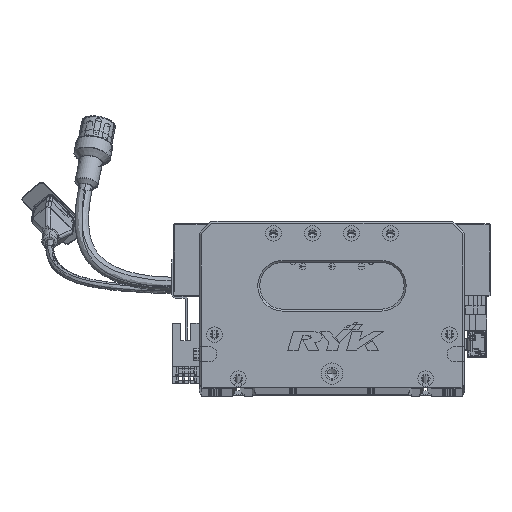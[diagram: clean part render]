
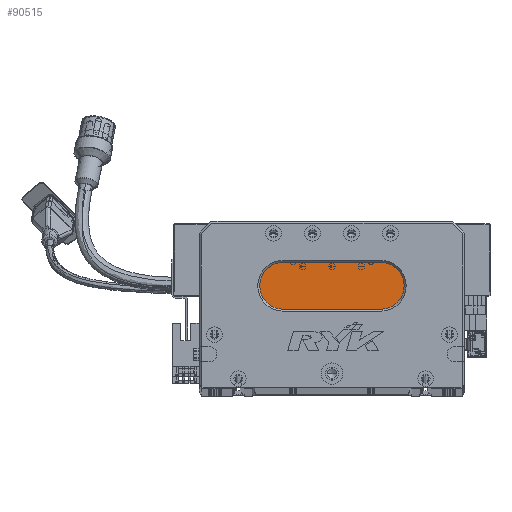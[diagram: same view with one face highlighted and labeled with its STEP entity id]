
A CAD part, top view. The second image highlights one B-rep face of the part: STEP entity #90515.
In plain terms, the highlighted planar face has unit normal (0, 0, 1) as drawn and (0, 0, -1) by its records, which use the part's own axes.
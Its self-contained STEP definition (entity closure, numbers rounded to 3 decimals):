
#146 = CARTESIAN_POINT ( 'NONE',  ( 43., 64., 13. ) ) ;
#2034 = VERTEX_POINT ( 'NONE', #146 ) ;
#2372 = LINE ( 'NONE', #71235, #17145 ) ;
#3712 = DIRECTION ( 'NONE',  ( 0., 0., -1. ) ) ;
#4210 = AXIS2_PLACEMENT_3D ( 'NONE', #67652, #31664, #20947 ) ;
#5195 = FACE_OUTER_BOUND ( 'NONE', #84935, .T. ) ;
#5804 = VERTEX_POINT ( 'NONE', #89399 ) ;
#8231 = AXIS2_PLACEMENT_3D ( 'NONE', #90310, #98613, #24242 ) ;
#9397 = VECTOR ( 'NONE', #61132, 1000. ) ;
#15174 = AXIS2_PLACEMENT_3D ( 'NONE', #109986, #53399, #44764 ) ;
#17145 = VECTOR ( 'NONE', #61684, 1000. ) ;
#20947 = DIRECTION ( 'NONE',  ( -1., 0., 0. ) ) ;
#21686 = ORIENTED_EDGE ( 'NONE', *, *, #90084, .T. ) ;
#22036 = ORIENTED_EDGE ( 'NONE', *, *, #32040, .T. ) ;
#24242 = DIRECTION ( 'NONE',  ( -1., 0., 0. ) ) ;
#30082 = EDGE_CURVE ( 'NONE', #5804, #58537, #106016, .T. ) ;
#31664 = DIRECTION ( 'NONE',  ( 0., 0., -1. ) ) ;
#32040 = EDGE_CURVE ( 'NONE', #2034, #5804, #74503, .T. ) ;
#35625 = EDGE_CURVE ( 'NONE', #113795, #2034, #116816, .T. ) ;
#36254 = ORIENTED_EDGE ( 'NONE', *, *, #91107, .T. ) ;
#40090 = ORIENTED_EDGE ( 'NONE', *, *, #30082, .T. ) ;
#44764 = DIRECTION ( 'NONE',  ( -1., 0., 0. ) ) ;
#53399 = DIRECTION ( 'NONE',  ( 0., 0., -1. ) ) ;
#58537 = VERTEX_POINT ( 'NONE', #119477 ) ;
#61132 = DIRECTION ( 'NONE',  ( 1., 0., 0. ) ) ;
#61684 = DIRECTION ( 'NONE',  ( -1., 0., 0. ) ) ;
#62694 = VERTEX_POINT ( 'NONE', #115341 ) ;
#67644 = CARTESIAN_POINT ( 'NONE',  ( 31., 52., 13. ) ) ;
#67652 = CARTESIAN_POINT ( 'NONE',  ( 43., 52., 13. ) ) ;
#69907 = CARTESIAN_POINT ( 'NONE',  ( 93., 52., 13. ) ) ;
#71235 = CARTESIAN_POINT ( 'NONE',  ( 93., 40., 13. ) ) ;
#74503 = LINE ( 'NONE', #98359, #9397 ) ;
#78900 = ORIENTED_EDGE ( 'NONE', *, *, #35625, .T. ) ;
#84935 = EDGE_LOOP ( 'NONE', ( #40090, #21686, #36254, #78900, #22036 ) ) ;
#89399 = CARTESIAN_POINT ( 'NONE',  ( 93., 64., 13. ) ) ;
#90084 = EDGE_CURVE ( 'NONE', #58537, #62694, #2372, .T. ) ;
#90310 = CARTESIAN_POINT ( 'NONE',  ( 43., 52., 13. ) ) ;
#90515 = ADVANCED_FACE ( 'NONE', ( #5195 ), #117339, .T. ) ;
#91107 = EDGE_CURVE ( 'NONE', #62694, #113795, #113030, .T. ) ;
#91269 = AXIS2_PLACEMENT_3D ( 'NONE', #69907, #3712, #107464 ) ;
#98359 = CARTESIAN_POINT ( 'NONE',  ( 93., 64., 13. ) ) ;
#98613 = DIRECTION ( 'NONE',  ( 0., 0., -1. ) ) ;
#106016 = CIRCLE ( 'NONE', #15174, 12. ) ;
#107464 = DIRECTION ( 'NONE',  ( -1., 0., 0. ) ) ;
#109986 = CARTESIAN_POINT ( 'NONE',  ( 93., 52., 13. ) ) ;
#113030 = CIRCLE ( 'NONE', #8231, 12. ) ;
#113795 = VERTEX_POINT ( 'NONE', #67644 ) ;
#115341 = CARTESIAN_POINT ( 'NONE',  ( 43., 40., 13. ) ) ;
#116816 = CIRCLE ( 'NONE', #4210, 12. ) ;
#117339 = PLANE ( 'NONE',  #91269 ) ;
#119477 = CARTESIAN_POINT ( 'NONE',  ( 93., 40., 13. ) ) ;
